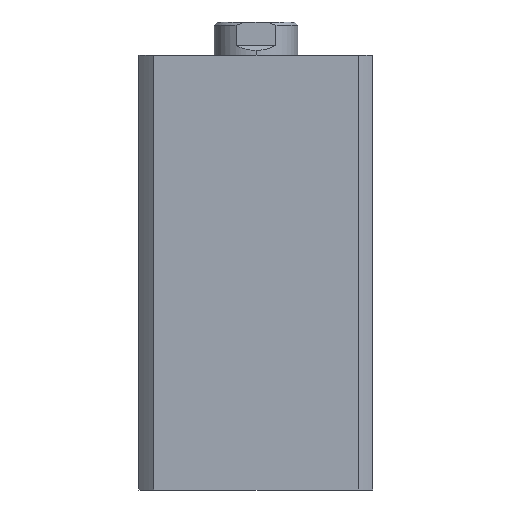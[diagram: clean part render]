
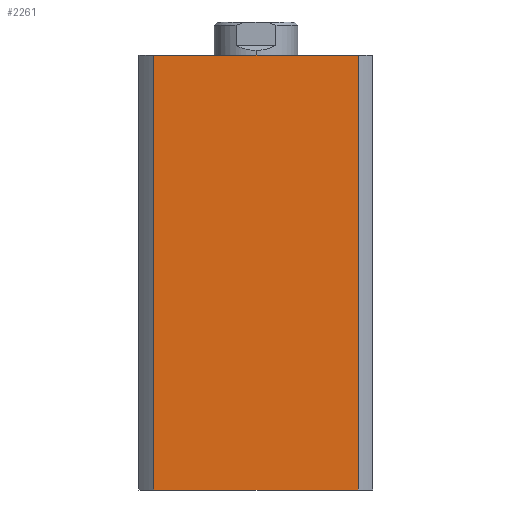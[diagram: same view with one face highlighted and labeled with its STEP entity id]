
A CAD part, left-side view. The second image highlights one B-rep face of the part: STEP entity #2261.
In plain terms, the highlighted planar face has unit normal (-1, 0, 0).
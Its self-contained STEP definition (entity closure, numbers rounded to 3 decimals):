
#418 = VERTEX_POINT ( 'NONE', #2587 ) ;
#443 = VERTEX_POINT ( 'NONE', #2689 ) ;
#497 = FACE_OUTER_BOUND ( 'NONE', #2449, .T. ) ;
#810 = LINE ( 'NONE', #4203, #816 ) ;
#814 = LINE ( 'NONE', #4202, #820 ) ;
#815 = LINE ( 'NONE', #4207, #818 ) ;
#816 = VECTOR ( 'NONE', #4199, 1000. ) ;
#818 = VECTOR ( 'NONE', #4209, 1000. ) ;
#820 = VECTOR ( 'NONE', #4210, 1000. ) ;
#860 = LINE ( 'NONE', #4358, #862 ) ;
#862 = VECTOR ( 'NONE', #4357, 1000. ) ;
#2261 = ADVANCED_FACE ( 'NONE', ( #497 ), #2601, .F. ) ;
#2449 = EDGE_LOOP ( 'NONE', ( #3027, #3022, #3023, #3021 ) ) ;
#2587 = CARTESIAN_POINT ( 'NONE',  ( -35., 30.615, 130. ) ) ;
#2595 = DIRECTION ( 'NONE',  ( 0., 1., 0. ) ) ;
#2596 = DIRECTION ( 'NONE',  ( 1., 0., 0. ) ) ;
#2601 = PLANE ( 'NONE',  #5024 ) ;
#2606 = CARTESIAN_POINT ( 'NONE',  ( -35., 0., 130. ) ) ;
#2689 = CARTESIAN_POINT ( 'NONE',  ( -35., -30.615, 130. ) ) ;
#3021 = ORIENTED_EDGE ( 'NONE', *, *, #4765, .T. ) ;
#3022 = ORIENTED_EDGE ( 'NONE', *, *, #4763, .F. ) ;
#3023 = ORIENTED_EDGE ( 'NONE', *, *, #4798, .F. ) ;
#3027 = ORIENTED_EDGE ( 'NONE', *, *, #4764, .T. ) ;
#3149 = VERTEX_POINT ( 'NONE', #3797 ) ;
#3197 = VERTEX_POINT ( 'NONE', #3850 ) ;
#3797 = CARTESIAN_POINT ( 'NONE',  ( -35., 30.615, 0. ) ) ;
#3850 = CARTESIAN_POINT ( 'NONE',  ( -35., -30.615, 0. ) ) ;
#4199 = DIRECTION ( 'NONE',  ( 0., 0., -1. ) ) ;
#4202 = CARTESIAN_POINT ( 'NONE',  ( -35., 30.615, 130. ) ) ;
#4203 = CARTESIAN_POINT ( 'NONE',  ( -35., -30.615, 130. ) ) ;
#4207 = CARTESIAN_POINT ( 'NONE',  ( -35., 0., 0. ) ) ;
#4209 = DIRECTION ( 'NONE',  ( 0., -1., 0. ) ) ;
#4210 = DIRECTION ( 'NONE',  ( 0., 0., -1. ) ) ;
#4357 = DIRECTION ( 'NONE',  ( 0., -1., 0. ) ) ;
#4358 = CARTESIAN_POINT ( 'NONE',  ( -35., 0., 130. ) ) ;
#4763 = EDGE_CURVE ( 'NONE', #443, #3197, #810, .T. ) ;
#4764 = EDGE_CURVE ( 'NONE', #3149, #3197, #815, .T. ) ;
#4765 = EDGE_CURVE ( 'NONE', #418, #3149, #814, .T. ) ;
#4798 = EDGE_CURVE ( 'NONE', #418, #443, #860, .T. ) ;
#5024 = AXIS2_PLACEMENT_3D ( 'NONE', #2606, #2596, #2595 ) ;
